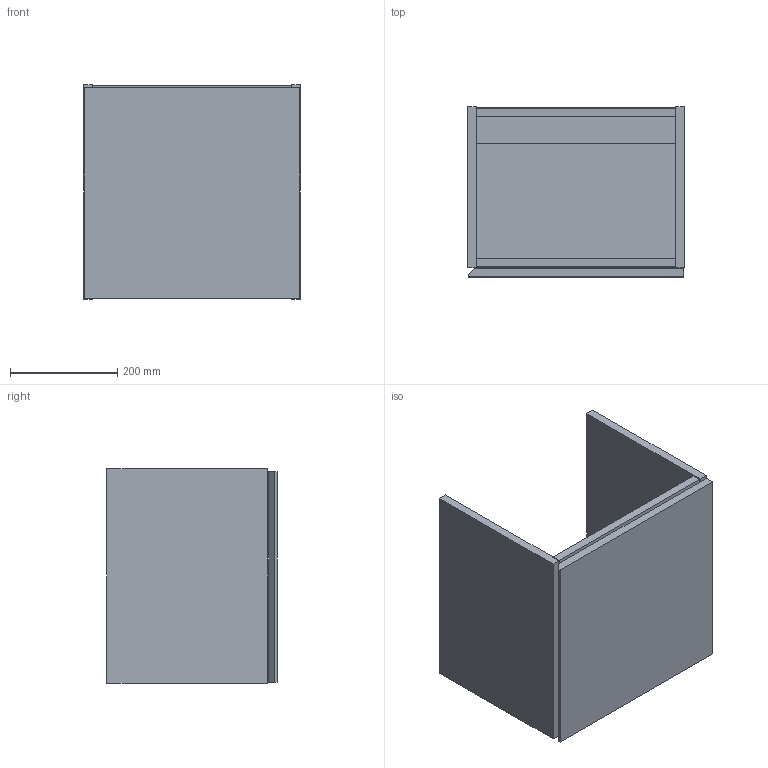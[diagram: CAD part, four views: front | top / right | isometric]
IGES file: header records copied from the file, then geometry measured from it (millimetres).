
Global section: file name: 510016; native system: Autodesk Inventor 2023; preprocessor: unknown; author: JANAN; date: 20241002.131459; units: millimetre
Bounding box: 405 x 318 x 400 mm (x, y, z)
Volume: 9115476.8 mm3; surface area: 1260975.8 mm2
Topology: 6 solids, 6 shells, 41 faces, 87 edges, 58 vertices
Faces by surface type: bspline 41
